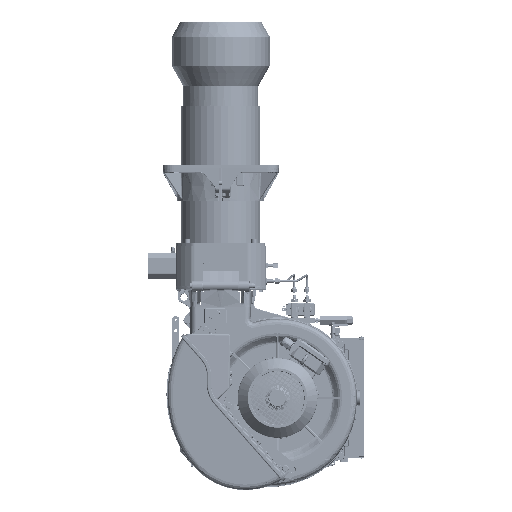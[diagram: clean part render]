
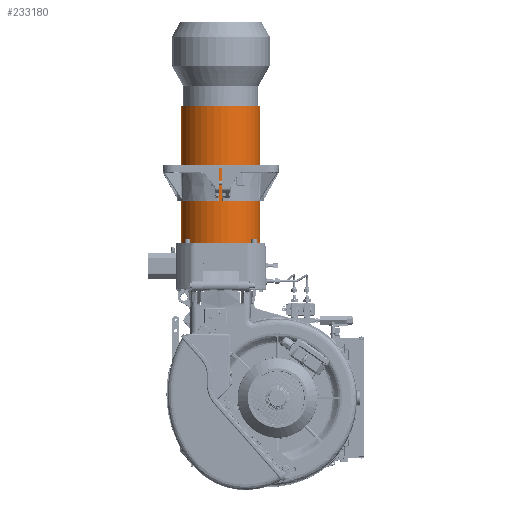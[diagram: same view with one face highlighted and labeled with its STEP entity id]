
A CAD part, left-side view. The second image highlights one B-rep face of the part: STEP entity #233180.
In plain terms, the highlighted cylindrical face has radius 109.55 mm (diameter 219.1 mm), a full revolution.
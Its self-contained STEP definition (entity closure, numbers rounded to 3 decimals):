
#26243 = CARTESIAN_POINT ( 'NONE',  ( 0., 0., 0. ) ) ;
#48015 = AXIS2_PLACEMENT_3D ( 'NONE', #26243, #201628, #550703 ) ;
#58897 = ORIENTED_EDGE ( 'NONE', *, *, #508075, .F. ) ;
#107124 = AXIS2_PLACEMENT_3D ( 'NONE', #376724, #466235, #197357 ) ;
#116053 = FACE_OUTER_BOUND ( 'NONE', #373946, .T. ) ;
#136313 = CYLINDRICAL_SURFACE ( 'NONE', #457955, 109.55 ) ;
#136819 = FACE_OUTER_BOUND ( 'NONE', #178909, .T. ) ;
#166086 = CARTESIAN_POINT ( 'NONE',  ( 0., 109.55, 377. ) ) ;
#169465 = DIRECTION ( 'NONE',  ( 0., 0., 1. ) ) ;
#178909 = EDGE_LOOP ( 'NONE', ( #352969 ) ) ;
#197357 = DIRECTION ( 'NONE',  ( 0., 1., 0. ) ) ;
#201628 = DIRECTION ( 'NONE',  ( 0., 0., -1. ) ) ;
#218802 = CIRCLE ( 'NONE', #107124, 109.55 ) ;
#233180 = ADVANCED_FACE ( 'NONE', ( #116053, #136819 ), #136313, .T. ) ;
#242180 = EDGE_CURVE ( 'NONE', #324092, #324092, #218802, .T. ) ;
#324092 = VERTEX_POINT ( 'NONE', #166086 ) ;
#352969 = ORIENTED_EDGE ( 'NONE', *, *, #242180, .T. ) ;
#371811 = DIRECTION ( 'NONE',  ( 0., -1., 0. ) ) ;
#373946 = EDGE_LOOP ( 'NONE', ( #58897 ) ) ;
#376724 = CARTESIAN_POINT ( 'NONE',  ( 0., 0., 377. ) ) ;
#384064 = CARTESIAN_POINT ( 'NONE',  ( 0., 109.55, 0. ) ) ;
#385182 = CARTESIAN_POINT ( 'NONE',  ( 0., 0., 0. ) ) ;
#457955 = AXIS2_PLACEMENT_3D ( 'NONE', #385182, #169465, #371811 ) ;
#466235 = DIRECTION ( 'NONE',  ( 0., 0., -1. ) ) ;
#508075 = EDGE_CURVE ( 'NONE', #555743, #555743, #559832, .T. ) ;
#550703 = DIRECTION ( 'NONE',  ( 0., 1., 0. ) ) ;
#555743 = VERTEX_POINT ( 'NONE', #384064 ) ;
#559832 = CIRCLE ( 'NONE', #48015, 109.55 ) ;
